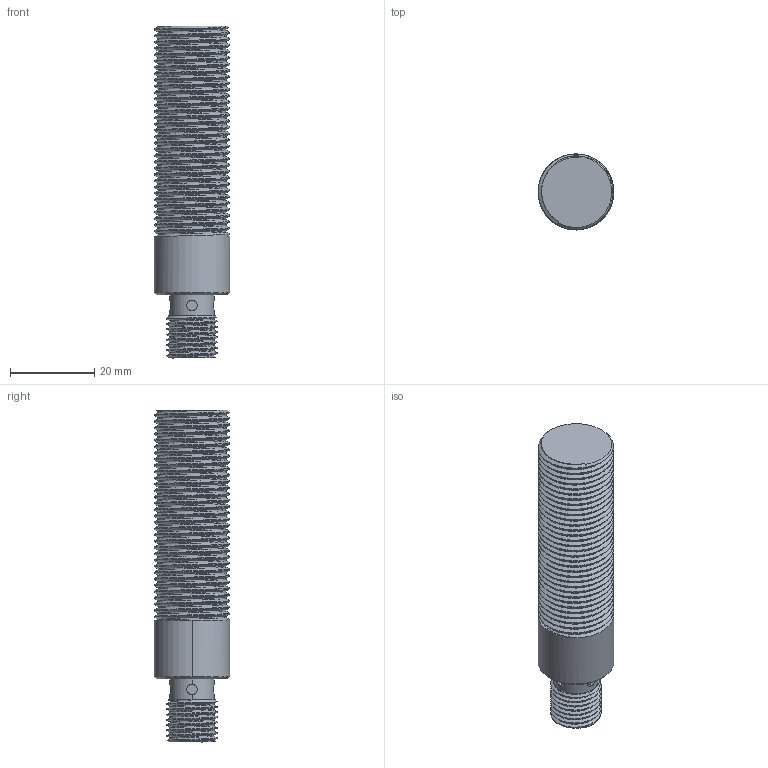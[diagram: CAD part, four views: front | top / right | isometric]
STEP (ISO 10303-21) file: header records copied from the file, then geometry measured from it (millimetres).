
FILE_DESCRIPTION (( 'STEP AP214' ), '1' );
FILE_NAME ('4.BIS5N60.STEP', '2024-11-19T02:50:30', ( '' ), ( '' ), 'SwSTEP 2.0', 'SolidWorks 2022', '' );
FILE_SCHEMA (( 'AUTOMOTIVE_DESIGN' ));
Length unit declared in the file: millimetre
Products named in the file (1): 4.BIS5N60
Bounding box: 18 x 18 x 79 mm (x, y, z)
Volume: 15967.6 mm3; surface area: 7033.7 mm2
Topology: 3 solids, 3 shells, 145 faces, 399 edges, 255 vertices
Faces by surface type: cylinder 110, plane 15, sphere 8, cone 6, bspline 6
Entity records: 19475 total; most frequent: CARTESIAN_POINT 16287, ORIENTED_EDGE 766, DIRECTION 525, EDGE_CURVE 383, VERTEX_POINT 247, AXIS2_PLACEMENT_3D 200, EDGE_LOOP 154, ADVANCED_FACE 145
